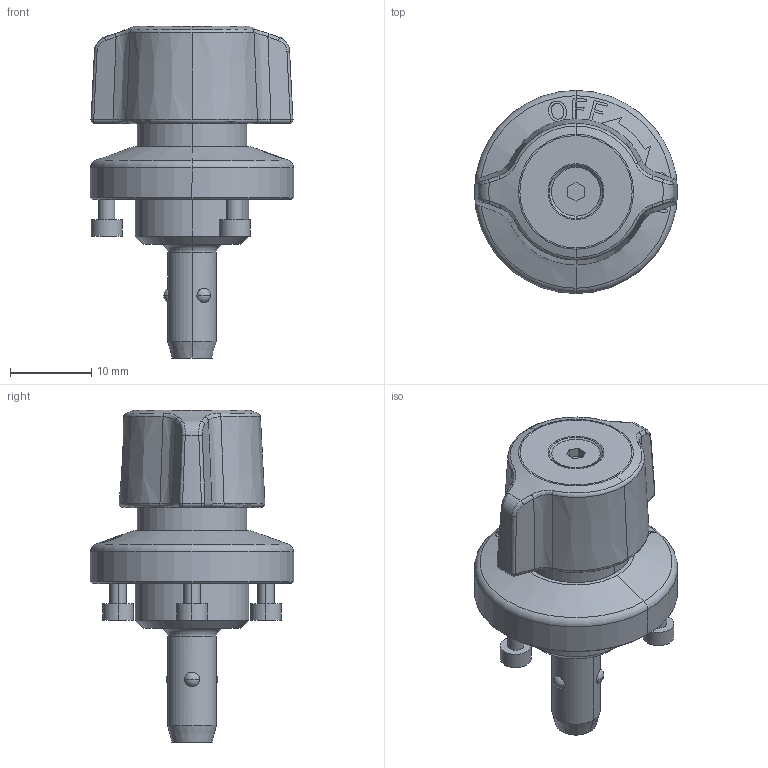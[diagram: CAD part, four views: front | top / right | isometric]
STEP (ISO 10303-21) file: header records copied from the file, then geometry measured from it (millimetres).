
FILE_DESCRIPTION (( 'STEP AP203' ), '1' );
FILE_NAME ('qcwe0625-10-sus.STEP', '2021-10-21T08:27:38', ( '' ), ( '' ), 'SwSTEP 2.0', 'SolidWorks 2020', '' );
FILE_SCHEMA (( 'CONFIG_CONTROL_DESIGN' ));
Length unit declared in the file: millimetre
Products named in the file (6): qcwe0625-10-sus; qcwe0625-10-sus_05; qcwe0625-10-sus_01; qcwe0625-10-sus_04; qcwe0625-10-sus_03; qcwe0625-10-sus_02
Assembly tree (5 placements, depth 2):
  qcwe0625-10-sus
    qcwe0625-10-sus_01
    qcwe0625-10-sus_02
    qcwe0625-10-sus_03
    qcwe0625-10-sus_04
    qcwe0625-10-sus_05
Bounding box: 25 x 25 x 40.85 mm (x, y, z)
Volume: 7444.9 mm3; surface area: 4261.6 mm2
Topology: 5 solids, 5 shells, 261 faces, 607 edges, 379 vertices
Faces by surface type: plane 89, bspline 56, cone 44, cylinder 38, torus 20, sphere 14
Entity records: 9671 total; most frequent: CARTESIAN_POINT 3521, ORIENTED_EDGE 1206, DIRECTION 1035, EDGE_CURVE 603, AXIS2_PLACEMENT_3D 409, VERTEX_POINT 379, EDGE_LOOP 288, FACE_OUTER_BOUND 261
